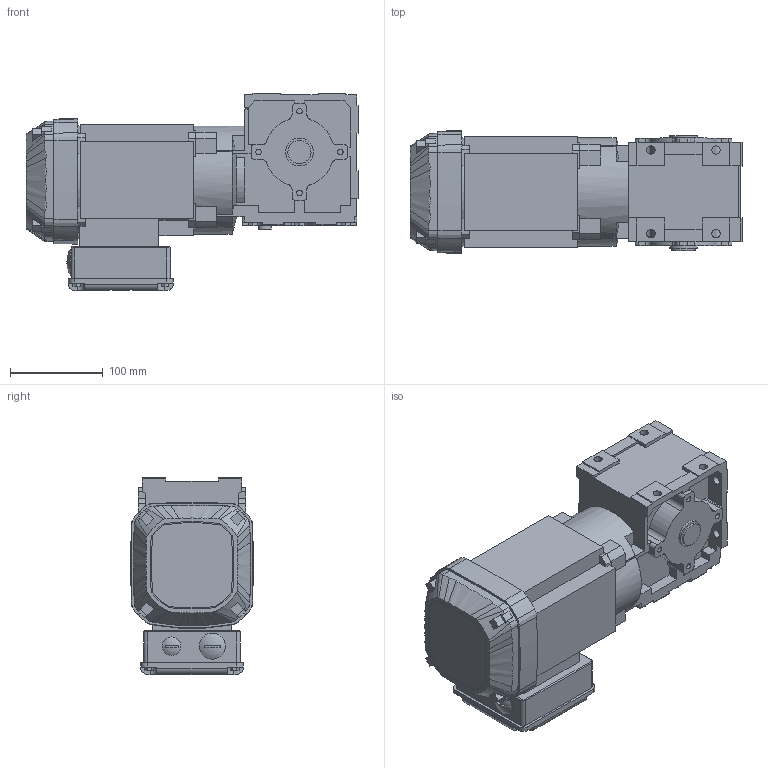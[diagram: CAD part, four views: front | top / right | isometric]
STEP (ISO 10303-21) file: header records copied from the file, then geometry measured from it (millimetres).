
FILE_DESCRIPTION(/* description */ ('SEW WA30 WITH MOTOR 0,37kW'),/* implementation_level */ '2;1');
FILE_NAME(/* name */ 'C:\Users\mikael.ljungberg\OneDrive - Carryline AB\Skrivbordet\Tillfalliga_filer\900-4040.stp',/* time_stamp */ '2021-04-22T08:37:43+02:00',/* author */ ('ML'),/* organization */ ('CARRYLINE'),/* preprocessor_version */ 'ST-DEVELOPER v18.1',/* originating_system */ 'Autodesk Inventor 2020',/* authorisation */ 'ML');
FILE_SCHEMA (('AUTOMOTIVE_DESIGN { 1 0 10303 214 3 1 1 }'));
Length unit declared in the file: millimetre
Products named in the file (1): 900-4040
Bounding box: 357.2 x 131.82 x 212 mm (x, y, z)
Volume: 5061110.1 mm3; surface area: 288806.7 mm2
Topology: 1 solids, 4 shells, 745 faces, 2098 edges, 1397 vertices
Faces by surface type: plane 435, cylinder 234, cone 41, bspline 33, sphere 2
Full cylindrical faces by diameter (mm): 4 x1, 6 x9, 9 x8, 14 x1, 20 x1, 25 x1, 28 x1, 30 x2
Entity records: 26385 total; most frequent: CARTESIAN_POINT 6728, ORIENTED_EDGE 4194, DIRECTION 4041, EDGE_CURVE 2097, VERTEX_POINT 1397, LINE 1363, VECTOR 1363, AXIS2_PLACEMENT_3D 1339
